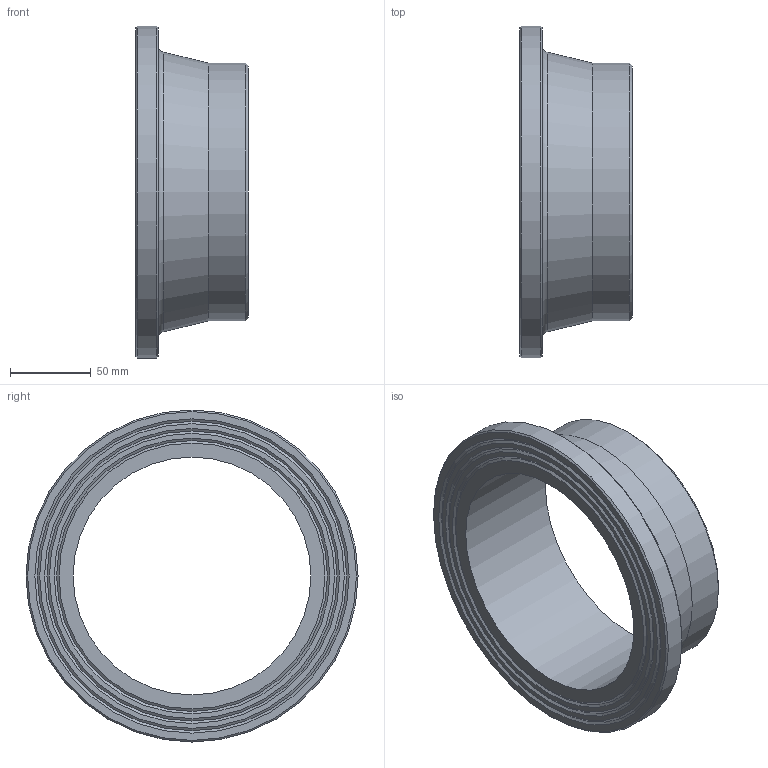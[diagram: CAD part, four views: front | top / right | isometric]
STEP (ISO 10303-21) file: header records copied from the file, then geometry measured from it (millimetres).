
FILE_DESCRIPTION(/* description */ ('Unknown'),/* implementation_level */ '2;1');
FILE_NAME(/* name */ 'CCP160A',/* time_stamp */ '2022-04-05T09:21:46+02:00',/* author */ ('Unknown'),/* organization */ ('Unknown'),/* preprocessor_version */ 'ST-DEVELOPER v18.1',/* originating_system */ 'Solid Edge',/* authorisation */ 'Unknown');
FILE_SCHEMA (('AUTOMOTIVE_DESIGN {1 0 10303 214 3 1 1}'));
Length unit declared in the file: millimetre
Products named in the file (1): CCP160A
Bounding box: 70 x 206 x 206 mm (x, y, z)
Volume: 451702.5 mm3; surface area: 98702.7 mm2
Topology: 1 solids, 1 shells, 20 faces, 35 edges, 21 vertices
Faces by surface type: cone 10, plane 6, cylinder 3, torus 1
Full cylindrical faces by diameter (mm): 147.6 x1, 160 x1, 206 x1
Entity records: 438 total; most frequent: DIRECTION 82, CARTESIAN_POINT 61, AXIS2_PLACEMENT_3D 41, ORIENTED_EDGE 40, EDGE_LOOP 40, FACE_BOUND 40, EDGE_CURVE 20, VERTEX_POINT 20
